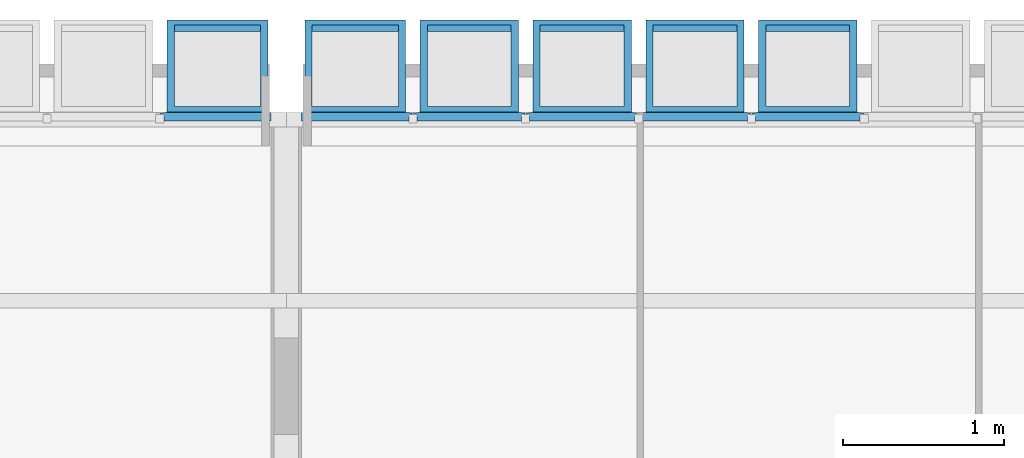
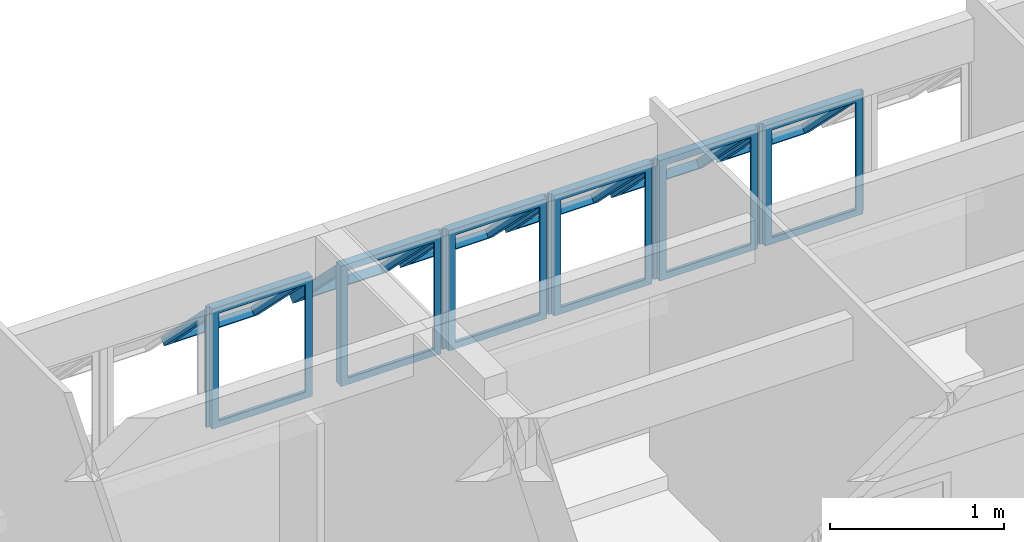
# One storey, part 33 of 37: 6 building element parts, 8 elements without a shape of their own.
"""IFC2X3 building model written with IfcOpenShell, lengths in millimetres."""

from ifc_helpers import new_model, entity, si_unit, converted_unit, derived_unit, money_unit, direction, frame, origin_with_axes, place, context, subcontext, project, spatial, faceted_brep, source, transform, mapped, material, type_object, element, aggregate, save


model = new_model("IFC2X3")

# Units and contexts
model_context = context("Model", 3, precision=0.01, world=origin_with_axes(), true_north=direction((0.0, 1.0)))
body_context = subcontext(model_context, "Body", "Model", "MODEL_VIEW")
ifc_project = project(units=[si_unit("LENGTHUNIT", "METRE", prefix="MILLI"), si_unit("AREAUNIT", "SQUARE_METRE"), si_unit("VOLUMEUNIT", "CUBIC_METRE"), converted_unit("PLANEANGLEUNIT", "DEGREE", entity("IfcPlaneAngleMeasure", 0.0174532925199), si_unit("PLANEANGLEUNIT", "RADIAN"), dimensions=[0, 0, 0, 0, 0, 0, 0]), money_unit("USD"), converted_unit("TIMEUNIT", "Year", entity("IfcTimeMeasure", 31556926.0), si_unit("TIMEUNIT", "SECOND"), dimensions=[0, 0, 1, 0, 0, 0, 0]), si_unit("MASSUNIT", "GRAM", prefix="KILO"), si_unit("THERMODYNAMICTEMPERATUREUNIT", "DEGREE_CELSIUS"), si_unit("LUMINOUSINTENSITYUNIT", "LUMEN"), si_unit("ENERGYUNIT", "JOULE", prefix="MEGA"), derived_unit("THERMALCONDUCTANCEUNIT", [(si_unit("POWERUNIT", "WATT"), 1), (si_unit("LENGTHUNIT", "METRE"), -1), (si_unit("THERMODYNAMICTEMPERATUREUNIT", "KELVIN"), -1)]), derived_unit("SPECIFICHEATCAPACITYUNIT", [(si_unit("ENERGYUNIT", "JOULE"), 1), (si_unit("MASSUNIT", "GRAM", prefix="KILO"), -1), (si_unit("THERMODYNAMICTEMPERATUREUNIT", "KELVIN"), -1)]), derived_unit("MASSDENSITYUNIT", [(si_unit("MASSUNIT", "GRAM", prefix="KILO"), 1), (si_unit("VOLUMEUNIT", "CUBIC_METRE"), -1)])], contexts=[model_context])

# Site, building, storey
site_placement = place(None, origin_with_axes())
site = spatial("IfcSite", under=ifc_project, at=site_placement, Name="Local", CompositionType="ELEMENT")
building_placement = place(site_placement, origin_with_axes())
building = spatial("IfcBuilding", under=site, at=building_placement, Name="Construção", CompositionType="ELEMENT")
storey_placement = place(building_placement, origin_with_axes())
storey = spatial("IfcBuildingStorey", under=building, at=storey_placement, Name="Primeiro Pavimento", CompositionType="ELEMENT", Elevation=0.0)

# Window, plates, building element parts
window_style = type_object("IfcWindowStyle", Name="Tipo de Parede Cortina", ConstructionType="NOTDEFINED", OperationType="NOTDEFINED", ParameterTakesPrecedence=False, Sizeable=False)
window_1_placement = place(storey_placement, frame((8520.0, 25844.9790225, 1355.02054151), z_axis=(0.0, 0.0, 1.0), x_axis=(1.0, 0.0, 0.0)))
window_1 = element("IfcWindow", 1, at=window_1_placement, inside=storey, type_object=window_style, Name="APTO4-JANELA-001")
plate_type_1 = type_object("IfcPlateType", Name="Painel Principal 690 x 845 x 20", PredefinedType="CURTAIN_PANEL")
plate_1_placement = place(window_1_placement, frame((0.0, 0.0, 422.499945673), z_axis=(0.0, 0.0, 1.0), x_axis=(1.0, 0.0, 0.0)))
plate_1 = element("IfcPlate", 2, at=plate_1_placement, type_object=plate_type_1, Name="APTO4-Painel-Prin-030")
ifc_material = material(Name="Alumínio")
shared_shape_1 = source(origin_with_axes(), body_context, "Body", "Brep", [
    faceted_brep([(25.0000036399, 0.0, -40.0), (674.999997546, 0.0, -40.0), (674.999997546, 0.0, -35.0), (25.0000036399, 0.0, -35.0), (70.0000036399, 45.0, -40.0), (629.999997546, 45.0, -40.0), (629.999997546, 45.0, -35.0), (70.0000036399, 45.0, -35.0)], [[[0, 1, 2, 3]], [[0, 4, 5, 1]], [[1, 5, 6, 2]], [[3, 2, 6, 7]], [[4, 0, 3, 7]], [[5, 4, 7, 6]]]),
    faceted_brep([(674.999997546, 0.0, -40.0), (674.999997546, 844.999891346, -40.0), (674.999997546, 844.999891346, -35.0), (674.999997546, 0.0, -35.0), (629.999997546, 45.0, -40.0), (629.999997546, 799.999891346, -40.0), (629.999997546, 799.999891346, -35.0), (629.999997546, 45.0, -35.0)], [[[0, 1, 2, 3]], [[0, 4, 5, 1]], [[1, 5, 6, 2]], [[3, 2, 6, 7]], [[4, 0, 3, 7]], [[5, 4, 7, 6]]]),
    faceted_brep([(25.0000036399, 844.999891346, -40.0), (70.0000036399, 799.999891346, -40.0), (70.0000036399, 799.999891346, -35.0), (25.0000036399, 844.999891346, -35.0), (674.999997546, 844.999891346, -40.0), (629.999997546, 799.999891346, -40.0), (629.999997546, 799.999891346, -35.0), (674.999997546, 844.999891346, -35.0)], [[[0, 1, 2, 3]], [[0, 4, 5, 1]], [[1, 5, 6, 2]], [[3, 2, 6, 7]], [[4, 0, 3, 7]], [[5, 4, 7, 6]]]),
    faceted_brep([(25.0000036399, 0.0, -40.0), (70.0000036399, 45.0, -40.0), (70.0000036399, 45.0, -35.0), (25.0000036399, 0.0, -35.0), (25.0000036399, 844.999891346, -40.0), (70.0000036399, 799.999891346, -40.0), (70.0000036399, 799.999891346, -35.0), (25.0000036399, 844.999891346, -35.0)], [[[0, 1, 2, 3]], [[0, 4, 5, 1]], [[1, 5, 6, 2]], [[3, 2, 6, 7]], [[4, 0, 3, 7]], [[5, 4, 7, 6]]]),
    faceted_brep([(25.0000036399, 0.0, -35.0), (674.999997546, 0.0, -35.0), (674.999997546, 0.0, 15.0), (25.0000036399, 0.0, 15.0), (45.0000036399, 20.0, -35.0), (654.999997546, 20.0, -35.0), (654.999997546, 20.0, 15.0), (45.0000036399, 20.0, 15.0)], [[[0, 1, 2, 3]], [[0, 4, 5, 1]], [[1, 5, 6, 2]], [[3, 2, 6, 7]], [[4, 0, 3, 7]], [[5, 4, 7, 6]]]),
    faceted_brep([(674.999997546, 0.0, -35.0), (674.999997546, 844.999891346, -35.0), (674.999997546, 844.999891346, 15.0), (674.999997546, 0.0, 15.0), (654.999997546, 20.0, -35.0), (654.999997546, 824.999891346, -35.0), (654.999997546, 824.999891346, 15.0), (654.999997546, 20.0, 15.0)], [[[0, 1, 2, 3]], [[0, 4, 5, 1]], [[1, 5, 6, 2]], [[3, 2, 6, 7]], [[4, 0, 3, 7]], [[5, 4, 7, 6]]]),
    faceted_brep([(25.0000036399, 844.999891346, -35.0), (45.0000036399, 824.999891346, -35.0), (45.0000036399, 824.999891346, 15.0), (25.0000036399, 844.999891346, 15.0), (674.999997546, 844.999891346, -35.0), (654.999997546, 824.999891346, -35.0), (654.999997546, 824.999891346, 15.0), (674.999997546, 844.999891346, 15.0)], [[[0, 1, 2, 3]], [[0, 4, 5, 1]], [[1, 5, 6, 2]], [[3, 2, 6, 7]], [[4, 0, 3, 7]], [[5, 4, 7, 6]]]),
    faceted_brep([(25.0000036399, 0.0, -35.0), (45.0000036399, 20.0, -35.0), (45.0000036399, 20.0, 15.0), (25.0000036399, 0.0, 15.0), (25.0000036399, 844.999891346, -35.0), (45.0000036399, 824.999891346, -35.0), (45.0000036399, 824.999891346, 15.0), (25.0000036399, 844.999891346, 15.0)], [[[0, 1, 2, 3]], [[0, 4, 5, 1]], [[1, 5, 6, 2]], [[3, 2, 6, 7]], [[4, 0, 3, 7]], [[5, 4, 7, 6]]]),
    faceted_brep([(694.999995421, 0.0, -10.0), (694.999995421, 844.999891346, -10.0), (694.999995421, 844.999891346, 10.0), (694.999995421, 0.0, 10.0), (674.999997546, 0.0, -10.0), (674.999997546, 844.999891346, -10.0), (674.999997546, 844.999891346, 10.0), (674.999997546, 0.0, 10.0)], [[[0, 1, 2, 3]], [[0, 4, 5, 1]], [[1, 5, 6, 2]], [[3, 2, 6, 7]], [[4, 0, 3, 7]], [[5, 4, 7, 6]]]),
    faceted_brep([(5.00000576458, 844.999891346, -10.0), (5.00000576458, 0.0, -10.0), (5.00000576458, 0.0, 10.0), (5.00000576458, 844.999891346, 10.0), (25.0000036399, 844.999891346, -10.0), (25.0000036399, 0.0, -10.0), (25.0000036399, 0.0, 10.0), (25.0000036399, 844.999891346, 10.0)], [[[0, 1, 2, 3]], [[0, 4, 5, 1]], [[1, 5, 6, 2]], [[3, 2, 6, 7]], [[4, 0, 3, 7]], [[5, 4, 7, 6]]]),
    faceted_brep([(90.0000036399, 252.243475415, 517.045737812), (90.0000036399, 757.824747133, 11.4644660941), (90.0000036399, 796.715620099, 50.3553390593), (90.0000036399, 291.13434838, 555.936610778), (45.0000036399, 220.423670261, 548.865542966), (45.0000036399, 789.644552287, -20.3553390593), (45.0000036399, 828.535425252, 18.5355339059), (45.0000036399, 259.314543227, 587.756415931)], [[[0, 1, 2, 3]], [[0, 4, 5, 1]], [[1, 5, 6, 2]], [[3, 2, 6, 7]], [[4, 0, 3, 7]], [[5, 4, 7, 6]]]),
    faceted_brep([(654.999997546, 220.423670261, 548.865542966), (654.999997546, 789.644552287, -20.3553390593), (654.999997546, 828.535425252, 18.5355339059), (654.999997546, 259.314543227, 587.756415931), (609.999997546, 252.243475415, 517.045737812), (609.999997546, 757.824747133, 11.4644660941), (609.999997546, 796.715620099, 50.3553390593), (609.999997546, 291.13434838, 555.936610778)], [[[0, 1, 2, 3]], [[0, 4, 5, 1]], [[1, 5, 6, 2]], [[3, 2, 6, 7]], [[4, 0, 3, 7]], [[5, 4, 7, 6]]]),
    faceted_brep([(654.999997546, 220.423670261, 548.865542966), (609.999997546, 252.243475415, 517.045737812), (609.999997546, 291.13434838, 555.936610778), (654.999997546, 259.314543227, 587.756415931), (45.0000036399, 220.423670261, 548.865542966), (90.0000036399, 252.243475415, 517.045737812), (90.0000036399, 291.13434838, 555.936610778), (45.0000036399, 259.314543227, 587.756415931)], [[[0, 1, 2, 3]], [[0, 4, 5, 1]], [[1, 5, 6, 2]], [[3, 2, 6, 7]], [[4, 0, 3, 7]], [[5, 4, 7, 6]]]),
    faceted_brep([(45.0000036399, 789.644552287, -20.3553390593), (90.0000036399, 757.824747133, 11.4644660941), (90.0000036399, 796.715620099, 50.3553390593), (45.0000036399, 828.535425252, 18.5355339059), (654.999997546, 789.644552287, -20.3553390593), (609.999997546, 757.824747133, 11.4644660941), (609.999997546, 796.715620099, 50.3553390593), (654.999997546, 828.535425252, 18.5355339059)], [[[0, 1, 2, 3]], [[0, 4, 5, 1]], [[1, 5, 6, 2]], [[3, 2, 6, 7]], [[4, 0, 3, 7]], [[5, 4, 7, 6]]]),
])
building_element_part_1_placement = place(plate_1_placement, origin_with_axes())
building_element_part_1 = element("IfcBuildingElementPart", 3, at=building_element_part_1_placement, material=ifc_material, Name="Alumínio", context=body_context, shape_type="MappedRepresentation", body=[
    mapped(shared_shape_1, transform((350.0, 0.0, -422.499945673), x_axis=(-1.0, 0.0, 0.0), y_axis=(0.0, 0.0, 1.0), z_axis=(0.0, 1.0, 0.0))),
])
aggregate(plate_1, [building_element_part_1])
plate_2_placement = place(window_1_placement, frame((700.0, 0.0, 422.499945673), z_axis=(0.0, 0.0, 1.0), x_axis=(1.0, 0.0, 0.0)))
plate_2 = element("IfcPlate", 4, at=plate_2_placement, type_object=plate_type_1, Name="APTO4-Painel-Prin-020")
building_element_part_2_placement = place(plate_2_placement, origin_with_axes())
building_element_part_2 = element("IfcBuildingElementPart", 5, at=building_element_part_2_placement, material=ifc_material, Name="Alumínio", context=body_context, shape_type="MappedRepresentation", body=[
    mapped(shared_shape_1, transform((350.0, 0.0, -422.499945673), x_axis=(-1.0, 0.0, 0.0), y_axis=(0.0, 0.0, 1.0), z_axis=(0.0, 1.0, 0.0))),
])
aggregate(plate_2, [building_element_part_2])
plate_3_placement = place(window_1_placement, frame((1400.0, 0.0, 422.499945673), z_axis=(0.0, 0.0, 1.0), x_axis=(1.0, 0.0, 0.0)))
plate_3 = element("IfcPlate", 6, at=plate_3_placement, type_object=plate_type_1, Name="APTO4-Painel-Prin-029")
building_element_part_3_placement = place(plate_3_placement, origin_with_axes())
building_element_part_3 = element("IfcBuildingElementPart", 7, at=building_element_part_3_placement, material=ifc_material, Name="Alumínio", context=body_context, shape_type="MappedRepresentation", body=[
    mapped(shared_shape_1, transform((350.0, 0.0, -422.499945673), x_axis=(-1.0, 0.0, 0.0), y_axis=(0.0, 0.0, 1.0), z_axis=(0.0, 1.0, 0.0))),
])
aggregate(plate_3, [building_element_part_3])
plate_type_2 = type_object("IfcPlateType", Name="Painel Principal 685 x 845 x 20", PredefinedType="CURTAIN_PANEL")
plate_4_placement = place(window_1_placement, frame((-695.000037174, 0.0, 422.499953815), z_axis=(0.0, 0.0, 1.0), x_axis=(1.0, 0.0, 0.0)))
plate_4 = element("IfcPlate", 8, at=plate_4_placement, type_object=plate_type_2, Name="APTO4-Painel-Prin-031")
shared_shape_2 = source(origin_with_axes(), body_context, "Body", "Brep", [
    faceted_brep([(25.0000046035, 0.0, -40.0), (690.000079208, 0.0, -40.0), (690.000079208, 0.0, -35.0), (25.0000046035, 0.0, -35.0), (70.0000046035, 45.0, -40.0), (645.000079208, 45.0, -40.0), (645.000079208, 45.0, -35.0), (70.0000046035, 45.0, -35.0)], [[[0, 1, 2, 3]], [[0, 4, 5, 1]], [[1, 5, 6, 2]], [[3, 2, 6, 7]], [[4, 0, 3, 7]], [[5, 4, 7, 6]]]),
    faceted_brep([(690.000079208, 0.0, -40.0), (690.000079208, 844.999923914, -40.0), (690.000079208, 844.999923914, -35.0), (690.000079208, 0.0, -35.0), (645.000079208, 45.0, -40.0), (645.000079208, 799.999923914, -40.0), (645.000079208, 799.999923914, -35.0), (645.000079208, 45.0, -35.0)], [[[0, 1, 2, 3]], [[0, 4, 5, 1]], [[1, 5, 6, 2]], [[3, 2, 6, 7]], [[4, 0, 3, 7]], [[5, 4, 7, 6]]]),
    faceted_brep([(25.0000046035, 844.999923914, -40.0), (70.0000046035, 799.999923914, -40.0), (70.0000046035, 799.999923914, -35.0), (25.0000046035, 844.999923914, -35.0), (690.000079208, 844.999923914, -40.0), (645.000079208, 799.999923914, -40.0), (645.000079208, 799.999923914, -35.0), (690.000079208, 844.999923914, -35.0)], [[[0, 1, 2, 3]], [[0, 4, 5, 1]], [[1, 5, 6, 2]], [[3, 2, 6, 7]], [[4, 0, 3, 7]], [[5, 4, 7, 6]]]),
    faceted_brep([(25.0000046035, 0.0, -40.0), (70.0000046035, 45.0, -40.0), (70.0000046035, 45.0, -35.0), (25.0000046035, 0.0, -35.0), (25.0000046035, 844.999923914, -40.0), (70.0000046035, 799.999923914, -40.0), (70.0000046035, 799.999923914, -35.0), (25.0000046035, 844.999923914, -35.0)], [[[0, 1, 2, 3]], [[0, 4, 5, 1]], [[1, 5, 6, 2]], [[3, 2, 6, 7]], [[4, 0, 3, 7]], [[5, 4, 7, 6]]]),
    faceted_brep([(25.0000046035, 0.0, -35.0), (690.000079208, 0.0, -35.0), (690.000079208, 0.0, 15.0), (25.0000046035, 0.0, 15.0), (45.0000046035, 20.0, -35.0), (670.000079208, 20.0, -35.0), (670.000079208, 20.0, 15.0), (45.0000046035, 20.0, 15.0)], [[[0, 1, 2, 3]], [[0, 4, 5, 1]], [[1, 5, 6, 2]], [[3, 2, 6, 7]], [[4, 0, 3, 7]], [[5, 4, 7, 6]]]),
    faceted_brep([(690.000079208, 0.0, -35.0), (690.000079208, 844.999923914, -35.0), (690.000079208, 844.999923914, 15.0), (690.000079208, 0.0, 15.0), (670.000079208, 20.0, -35.0), (670.000079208, 824.999923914, -35.0), (670.000079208, 824.999923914, 15.0), (670.000079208, 20.0, 15.0)], [[[0, 1, 2, 3]], [[0, 4, 5, 1]], [[1, 5, 6, 2]], [[3, 2, 6, 7]], [[4, 0, 3, 7]], [[5, 4, 7, 6]]]),
    faceted_brep([(25.0000046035, 844.999923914, -35.0), (45.0000046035, 824.999923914, -35.0), (45.0000046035, 824.999923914, 15.0), (25.0000046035, 844.999923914, 15.0), (690.000079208, 844.999923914, -35.0), (670.000079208, 824.999923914, -35.0), (670.000079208, 824.999923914, 15.0), (690.000079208, 844.999923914, 15.0)], [[[0, 1, 2, 3]], [[0, 4, 5, 1]], [[1, 5, 6, 2]], [[3, 2, 6, 7]], [[4, 0, 3, 7]], [[5, 4, 7, 6]]]),
    faceted_brep([(25.0000046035, 0.0, -35.0), (45.0000046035, 20.0, -35.0), (45.0000046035, 20.0, 15.0), (25.0000046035, 0.0, 15.0), (25.0000046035, 844.999923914, -35.0), (45.0000046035, 824.999923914, -35.0), (45.0000046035, 824.999923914, 15.0), (25.0000046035, 844.999923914, 15.0)], [[[0, 1, 2, 3]], [[0, 4, 5, 1]], [[1, 5, 6, 2]], [[3, 2, 6, 7]], [[4, 0, 3, 7]], [[5, 4, 7, 6]]]),
    faceted_brep([(5.00000595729, 844.999923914, -10.0), (5.00000595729, 0.0, -10.0), (5.00000595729, 0.0, 10.0), (5.00000595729, 844.999923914, 10.0), (25.0000046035, 844.999923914, -10.0), (25.0000046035, 0.0, -10.0), (25.0000046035, 0.0, 10.0), (25.0000046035, 844.999923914, 10.0)], [[[0, 1, 2, 3]], [[0, 4, 5, 1]], [[1, 5, 6, 2]], [[3, 2, 6, 7]], [[4, 0, 3, 7]], [[5, 4, 7, 6]]]),
    faceted_brep([(90.0000046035, 252.243484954, 517.045760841), (90.0000046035, 757.824779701, 11.4644660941), (90.0000046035, 796.715652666, 50.3553390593), (90.0000046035, 291.134357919, 555.936633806), (45.0000046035, 220.4236798, 548.865565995), (45.0000046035, 789.644584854, -20.3553390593), (45.0000046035, 828.535457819, 18.5355339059), (45.0000046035, 259.314552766, 587.75643896)], [[[0, 1, 2, 3]], [[0, 4, 5, 1]], [[1, 5, 6, 2]], [[3, 2, 6, 7]], [[4, 0, 3, 7]], [[5, 4, 7, 6]]]),
    faceted_brep([(670.000079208, 220.4236798, 548.865565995), (670.000079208, 789.644584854, -20.3553390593), (670.000079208, 828.535457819, 18.5355339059), (670.000079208, 259.314552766, 587.75643896), (625.000079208, 252.243484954, 517.045760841), (625.000079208, 757.824779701, 11.4644660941), (625.000079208, 796.715652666, 50.3553390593), (625.000079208, 291.134357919, 555.936633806)], [[[0, 1, 2, 3]], [[0, 4, 5, 1]], [[1, 5, 6, 2]], [[3, 2, 6, 7]], [[4, 0, 3, 7]], [[5, 4, 7, 6]]]),
    faceted_brep([(670.000079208, 220.4236798, 548.865565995), (625.000079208, 252.243484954, 517.045760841), (625.000079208, 291.134357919, 555.936633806), (670.000079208, 259.314552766, 587.75643896), (45.0000046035, 220.4236798, 548.865565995), (90.0000046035, 252.243484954, 517.045760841), (90.0000046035, 291.134357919, 555.936633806), (45.0000046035, 259.314552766, 587.75643896)], [[[0, 1, 2, 3]], [[0, 4, 5, 1]], [[1, 5, 6, 2]], [[3, 2, 6, 7]], [[4, 0, 3, 7]], [[5, 4, 7, 6]]]),
    faceted_brep([(45.0000046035, 789.644584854, -20.3553390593), (90.0000046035, 757.824779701, 11.4644660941), (90.0000046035, 796.715652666, 50.3553390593), (45.0000046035, 828.535457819, 18.5355339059), (670.000079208, 789.644584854, -20.3553390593), (625.000079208, 757.824779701, 11.4644660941), (625.000079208, 796.715652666, 50.3553390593), (670.000079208, 828.535457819, 18.5355339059)], [[[0, 1, 2, 3]], [[0, 4, 5, 1]], [[1, 5, 6, 2]], [[3, 2, 6, 7]], [[4, 0, 3, 7]], [[5, 4, 7, 6]]]),
])
building_element_part_4_placement = place(plate_4_placement, origin_with_axes())
building_element_part_4 = element("IfcBuildingElementPart", 9, at=building_element_part_4_placement, material=ifc_material, Name="Alumínio", context=body_context, shape_type="MappedRepresentation", body=[
    mapped(shared_shape_2, transform((345.000037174, 0.0, -422.499953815), x_axis=(-1.0, 0.0, 0.0), y_axis=(0.0, 0.0, 1.0), z_axis=(0.0, 1.0, 0.0))),
])
aggregate(plate_4, [building_element_part_4])
plate_5_placement = place(window_1_placement, frame((2100.0, 0.0, 422.499945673), z_axis=(0.0, 0.0, 1.0), x_axis=(1.0, 0.0, 0.0)))
plate_5 = element("IfcPlate", 10, at=plate_5_placement, type_object=plate_type_1, Name="APTO4-Painel-Prin-025")
aggregate(window_1, [plate_1, plate_4, plate_5, plate_2, plate_3])
shared_shape_3 = source(origin_with_axes(), body_context, "Body", "Brep", [
    faceted_brep([(25.0000036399, 0.0, -40.0), (674.999997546, 0.0, -40.0), (674.999997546, 0.0, -35.0), (25.0000036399, 0.0, -35.0), (70.0000036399, 45.0, -40.0), (629.999997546, 45.0, -40.0), (629.999997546, 45.0, -35.0), (70.0000036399, 45.0, -35.0)], [[[0, 1, 2, 3]], [[0, 4, 5, 1]], [[1, 5, 6, 2]], [[3, 2, 6, 7]], [[4, 0, 3, 7]], [[5, 4, 7, 6]]]),
    faceted_brep([(674.999997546, 0.0, -40.0), (674.999997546, 844.999891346, -40.0), (674.999997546, 844.999891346, -35.0), (674.999997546, 0.0, -35.0), (629.999997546, 45.0, -40.0), (629.999997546, 799.999891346, -40.0), (629.999997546, 799.999891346, -35.0), (629.999997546, 45.0, -35.0)], [[[0, 1, 2, 3]], [[0, 4, 5, 1]], [[1, 5, 6, 2]], [[3, 2, 6, 7]], [[4, 0, 3, 7]], [[5, 4, 7, 6]]]),
    faceted_brep([(25.0000036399, 844.999891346, -40.0), (70.0000036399, 799.999891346, -40.0), (70.0000036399, 799.999891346, -35.0), (25.0000036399, 844.999891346, -35.0), (674.999997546, 844.999891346, -40.0), (629.999997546, 799.999891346, -40.0), (629.999997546, 799.999891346, -35.0), (674.999997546, 844.999891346, -35.0)], [[[0, 1, 2, 3]], [[0, 4, 5, 1]], [[1, 5, 6, 2]], [[3, 2, 6, 7]], [[4, 0, 3, 7]], [[5, 4, 7, 6]]]),
    faceted_brep([(25.0000036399, 0.0, -40.0), (70.0000036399, 45.0, -40.0), (70.0000036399, 45.0, -35.0), (25.0000036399, 0.0, -35.0), (25.0000036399, 844.999891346, -40.0), (70.0000036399, 799.999891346, -40.0), (70.0000036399, 799.999891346, -35.0), (25.0000036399, 844.999891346, -35.0)], [[[0, 1, 2, 3]], [[0, 4, 5, 1]], [[1, 5, 6, 2]], [[3, 2, 6, 7]], [[4, 0, 3, 7]], [[5, 4, 7, 6]]]),
    faceted_brep([(25.0000036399, 0.0, -35.0), (674.999997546, 0.0, -35.0), (674.999997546, 0.0, 15.0), (25.0000036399, 0.0, 15.0), (45.0000036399, 20.0, -35.0), (654.999997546, 20.0, -35.0), (654.999997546, 20.0, 15.0), (45.0000036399, 20.0, 15.0)], [[[0, 1, 2, 3]], [[0, 4, 5, 1]], [[1, 5, 6, 2]], [[3, 2, 6, 7]], [[4, 0, 3, 7]], [[5, 4, 7, 6]]]),
    faceted_brep([(674.999997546, 0.0, -35.0), (674.999997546, 844.999891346, -35.0), (674.999997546, 844.999891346, 15.0), (674.999997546, 0.0, 15.0), (654.999997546, 20.0, -35.0), (654.999997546, 824.999891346, -35.0), (654.999997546, 824.999891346, 15.0), (654.999997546, 20.0, 15.0)], [[[0, 1, 2, 3]], [[0, 4, 5, 1]], [[1, 5, 6, 2]], [[3, 2, 6, 7]], [[4, 0, 3, 7]], [[5, 4, 7, 6]]]),
    faceted_brep([(25.0000036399, 844.999891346, -35.0), (45.0000036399, 824.999891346, -35.0), (45.0000036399, 824.999891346, 15.0), (25.0000036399, 844.999891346, 15.0), (674.999997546, 844.999891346, -35.0), (654.999997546, 824.999891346, -35.0), (654.999997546, 824.999891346, 15.0), (674.999997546, 844.999891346, 15.0)], [[[0, 1, 2, 3]], [[0, 4, 5, 1]], [[1, 5, 6, 2]], [[3, 2, 6, 7]], [[4, 0, 3, 7]], [[5, 4, 7, 6]]]),
    faceted_brep([(25.0000036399, 0.0, -35.0), (45.0000036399, 20.0, -35.0), (45.0000036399, 20.0, 15.0), (25.0000036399, 0.0, 15.0), (25.0000036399, 844.999891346, -35.0), (45.0000036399, 824.999891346, -35.0), (45.0000036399, 824.999891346, 15.0), (25.0000036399, 844.999891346, 15.0)], [[[0, 1, 2, 3]], [[0, 4, 5, 1]], [[1, 5, 6, 2]], [[3, 2, 6, 7]], [[4, 0, 3, 7]], [[5, 4, 7, 6]]]),
    faceted_brep([(694.999995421, 0.0, -10.0), (694.999995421, 844.999891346, -10.0), (694.999995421, 844.999891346, 10.0), (694.999995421, 0.0, 10.0), (674.999997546, 0.0, -10.0), (674.999997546, 844.999891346, -10.0), (674.999997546, 844.999891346, 10.0), (674.999997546, 0.0, 10.0)], [[[0, 1, 2, 3]], [[0, 4, 5, 1]], [[1, 5, 6, 2]], [[3, 2, 6, 7]], [[4, 0, 3, 7]], [[5, 4, 7, 6]]]),
    faceted_brep([(5.00000576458, 844.999891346, -10.0), (5.00000576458, 0.0, -10.0), (5.00000576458, 0.0, 10.0), (5.00000576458, 844.999891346, 10.0), (25.0000036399, 844.999891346, -10.0), (25.0000036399, 0.0, -10.0), (25.0000036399, 0.0, 10.0), (25.0000036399, 844.999891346, 10.0)], [[[0, 1, 2, 3]], [[0, 4, 5, 1]], [[1, 5, 6, 2]], [[3, 2, 6, 7]], [[4, 0, 3, 7]], [[5, 4, 7, 6]]]),
    faceted_brep([(90.0000036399, 252.243475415, 517.045737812), (90.0000036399, 757.824747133, 11.4644660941), (90.0000036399, 796.715620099, 50.3553390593), (90.0000036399, 291.13434838, 555.936610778), (45.0000036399, 220.423670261, 548.865542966), (45.0000036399, 789.644552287, -20.3553390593), (45.0000036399, 828.535425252, 18.5355339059), (45.0000036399, 259.314543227, 587.756415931)], [[[0, 1, 2, 3]], [[0, 4, 5, 1]], [[1, 5, 6, 2]], [[3, 2, 6, 7]], [[4, 0, 3, 7]], [[5, 4, 7, 6]]]),
    faceted_brep([(654.999997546, 220.423670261, 548.865542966), (654.999997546, 789.644552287, -20.3553390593), (654.999997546, 828.535425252, 18.5355339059), (654.999997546, 259.314543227, 587.756415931), (609.999997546, 252.243475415, 517.045737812), (609.999997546, 757.824747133, 11.4644660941), (609.999997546, 796.715620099, 50.3553390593), (609.999997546, 291.13434838, 555.936610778)], [[[0, 1, 2, 3]], [[0, 4, 5, 1]], [[1, 5, 6, 2]], [[3, 2, 6, 7]], [[4, 0, 3, 7]], [[5, 4, 7, 6]]]),
    faceted_brep([(654.999997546, 220.423670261, 548.865542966), (609.999997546, 252.243475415, 517.045737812), (609.999997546, 291.13434838, 555.936610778), (654.999997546, 259.314543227, 587.756415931), (45.0000036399, 220.423670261, 548.865542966), (90.0000036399, 252.243475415, 517.045737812), (90.0000036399, 291.13434838, 555.936610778), (45.0000036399, 259.314543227, 587.756415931)], [[[0, 1, 2, 3]], [[0, 4, 5, 1]], [[1, 5, 6, 2]], [[3, 2, 6, 7]], [[4, 0, 3, 7]], [[5, 4, 7, 6]]]),
    faceted_brep([(45.0000036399, 789.644552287, -20.3553390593), (90.0000036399, 757.824747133, 11.4644660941), (90.0000036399, 796.715620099, 50.3553390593), (45.0000036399, 828.535425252, 18.5355339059), (654.999997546, 789.644552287, -20.3553390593), (609.999997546, 757.824747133, 11.4644660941), (609.999997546, 796.715620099, 50.3553390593), (654.999997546, 828.535425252, 18.5355339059)], [[[0, 1, 2, 3]], [[0, 4, 5, 1]], [[1, 5, 6, 2]], [[3, 2, 6, 7]], [[4, 0, 3, 7]], [[5, 4, 7, 6]]]),
])
building_element_part_5_placement = place(plate_5_placement, origin_with_axes())
building_element_part_5 = element("IfcBuildingElementPart", 11, at=building_element_part_5_placement, material=ifc_material, Name="Alumínio", context=body_context, shape_type="MappedRepresentation", body=[
    mapped(shared_shape_3, transform((350.0, 0.0, -422.499945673), x_axis=(-1.0, 0.0, 0.0), y_axis=(0.0, 0.0, 1.0), z_axis=(0.0, 1.0, 0.0))),
])
aggregate(plate_5, [building_element_part_5])

# Window, plate, building element part
window_2_placement = place(storey_placement, frame((6250.0, 25844.9790225, 1355.02054151), z_axis=(0.0, 0.0, 1.0), x_axis=(1.0, 0.0, 0.0)))
window_2 = element("IfcWindow", 12, at=window_2_placement, inside=storey, type_object=window_style, Name="APTO3-JANELA-001")
plate_6_placement = place(window_2_placement, frame((695.000037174, 0.0, 422.499953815), z_axis=(0.0, 0.0, 1.0), x_axis=(-1.0, 0.0, 0.0)))
plate_6 = element("IfcPlate", 13, at=plate_6_placement, type_object=plate_type_2, Name="APTO3-Painel-Prin-031")
aggregate(window_2, [plate_6])
shared_shape_4 = source(origin_with_axes(), body_context, "Body", "Brep", [
    faceted_brep([(-25.0000046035, 0.0, -40.0), (-25.0000046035, 0.0, -35.0), (-690.000079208, 0.0, -35.0), (-690.000079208, 0.0, -40.0), (-70.0000046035, 45.0, -40.0), (-70.0000046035, 45.0, -35.0), (-645.000079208, 45.0, -35.0), (-645.000079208, 45.0, -40.0)], [[[0, 1, 2, 3]], [[4, 5, 1, 0]], [[1, 5, 6, 2]], [[3, 2, 6, 7]], [[0, 3, 7, 4]], [[7, 6, 5, 4]]]),
    faceted_brep([(-690.000079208, 0.0, -40.0), (-690.000079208, 0.0, -35.0), (-690.000079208, 844.999923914, -35.0), (-690.000079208, 844.999923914, -40.0), (-645.000079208, 45.0, -40.0), (-645.000079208, 45.0, -35.0), (-645.000079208, 799.999923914, -35.0), (-645.000079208, 799.999923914, -40.0)], [[[0, 1, 2, 3]], [[4, 5, 1, 0]], [[1, 5, 6, 2]], [[3, 2, 6, 7]], [[0, 3, 7, 4]], [[7, 6, 5, 4]]]),
    faceted_brep([(-25.0000046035, 844.999923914, -40.0), (-25.0000046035, 844.999923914, -35.0), (-70.0000046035, 799.999923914, -35.0), (-70.0000046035, 799.999923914, -40.0), (-690.000079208, 844.999923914, -40.0), (-690.000079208, 844.999923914, -35.0), (-645.000079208, 799.999923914, -35.0), (-645.000079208, 799.999923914, -40.0)], [[[0, 1, 2, 3]], [[4, 5, 1, 0]], [[1, 5, 6, 2]], [[3, 2, 6, 7]], [[0, 3, 7, 4]], [[7, 6, 5, 4]]]),
    faceted_brep([(-25.0000046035, 0.0, -40.0), (-25.0000046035, 0.0, -35.0), (-70.0000046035, 45.0, -35.0), (-70.0000046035, 45.0, -40.0), (-25.0000046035, 844.999923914, -40.0), (-25.0000046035, 844.999923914, -35.0), (-70.0000046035, 799.999923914, -35.0), (-70.0000046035, 799.999923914, -40.0)], [[[0, 1, 2, 3]], [[4, 5, 1, 0]], [[1, 5, 6, 2]], [[3, 2, 6, 7]], [[0, 3, 7, 4]], [[7, 6, 5, 4]]]),
    faceted_brep([(-25.0000046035, 0.0, -35.0), (-25.0000046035, 0.0, 15.0), (-690.000079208, 0.0, 15.0), (-690.000079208, 0.0, -35.0), (-45.0000046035, 20.0, -35.0), (-45.0000046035, 20.0, 15.0), (-670.000079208, 20.0, 15.0), (-670.000079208, 20.0, -35.0)], [[[0, 1, 2, 3]], [[4, 5, 1, 0]], [[1, 5, 6, 2]], [[3, 2, 6, 7]], [[0, 3, 7, 4]], [[7, 6, 5, 4]]]),
    faceted_brep([(-690.000079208, 0.0, -35.0), (-690.000079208, 0.0, 15.0), (-690.000079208, 844.999923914, 15.0), (-690.000079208, 844.999923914, -35.0), (-670.000079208, 20.0, -35.0), (-670.000079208, 20.0, 15.0), (-670.000079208, 824.999923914, 15.0), (-670.000079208, 824.999923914, -35.0)], [[[0, 1, 2, 3]], [[4, 5, 1, 0]], [[1, 5, 6, 2]], [[3, 2, 6, 7]], [[0, 3, 7, 4]], [[7, 6, 5, 4]]]),
    faceted_brep([(-25.0000046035, 844.999923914, -35.0), (-25.0000046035, 844.999923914, 15.0), (-45.0000046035, 824.999923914, 15.0), (-45.0000046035, 824.999923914, -35.0), (-690.000079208, 844.999923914, -35.0), (-690.000079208, 844.999923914, 15.0), (-670.000079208, 824.999923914, 15.0), (-670.000079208, 824.999923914, -35.0)], [[[0, 1, 2, 3]], [[4, 5, 1, 0]], [[1, 5, 6, 2]], [[3, 2, 6, 7]], [[0, 3, 7, 4]], [[7, 6, 5, 4]]]),
    faceted_brep([(-25.0000046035, 0.0, -35.0), (-25.0000046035, 0.0, 15.0), (-45.0000046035, 20.0, 15.0), (-45.0000046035, 20.0, -35.0), (-25.0000046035, 844.999923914, -35.0), (-25.0000046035, 844.999923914, 15.0), (-45.0000046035, 824.999923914, 15.0), (-45.0000046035, 824.999923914, -35.0)], [[[0, 1, 2, 3]], [[4, 5, 1, 0]], [[1, 5, 6, 2]], [[3, 2, 6, 7]], [[0, 3, 7, 4]], [[7, 6, 5, 4]]]),
    faceted_brep([(-5.00000595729, 844.999923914, -10.0), (-5.00000595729, 844.999923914, 10.0), (-5.00000595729, 0.0, 10.0), (-5.00000595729, 0.0, -10.0), (-25.0000046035, 844.999923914, -10.0), (-25.0000046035, 844.999923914, 10.0), (-25.0000046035, 0.0, 10.0), (-25.0000046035, 0.0, -10.0)], [[[0, 1, 2, 3]], [[4, 5, 1, 0]], [[1, 5, 6, 2]], [[3, 2, 6, 7]], [[0, 3, 7, 4]], [[7, 6, 5, 4]]]),
    faceted_brep([(-90.0000046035, 252.243484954, 517.045760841), (-90.0000046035, 291.134357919, 555.936633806), (-90.0000046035, 796.715652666, 50.3553390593), (-90.0000046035, 757.824779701, 11.4644660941), (-45.0000046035, 220.4236798, 548.865565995), (-45.0000046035, 259.314552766, 587.75643896), (-45.0000046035, 828.535457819, 18.5355339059), (-45.0000046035, 789.644584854, -20.3553390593)], [[[0, 1, 2, 3]], [[4, 5, 1, 0]], [[1, 5, 6, 2]], [[3, 2, 6, 7]], [[0, 3, 7, 4]], [[7, 6, 5, 4]]]),
    faceted_brep([(-670.000079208, 220.4236798, 548.865565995), (-670.000079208, 259.314552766, 587.75643896), (-670.000079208, 828.535457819, 18.5355339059), (-670.000079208, 789.644584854, -20.3553390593), (-625.000079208, 252.243484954, 517.045760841), (-625.000079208, 291.134357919, 555.936633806), (-625.000079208, 796.715652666, 50.3553390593), (-625.000079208, 757.824779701, 11.4644660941)], [[[0, 1, 2, 3]], [[4, 5, 1, 0]], [[1, 5, 6, 2]], [[3, 2, 6, 7]], [[0, 3, 7, 4]], [[7, 6, 5, 4]]]),
    faceted_brep([(-670.000079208, 220.4236798, 548.865565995), (-670.000079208, 259.314552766, 587.75643896), (-625.000079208, 291.134357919, 555.936633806), (-625.000079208, 252.243484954, 517.045760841), (-45.0000046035, 220.4236798, 548.865565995), (-45.0000046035, 259.314552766, 587.75643896), (-90.0000046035, 291.134357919, 555.936633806), (-90.0000046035, 252.243484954, 517.045760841)], [[[0, 1, 2, 3]], [[4, 5, 1, 0]], [[1, 5, 6, 2]], [[3, 2, 6, 7]], [[0, 3, 7, 4]], [[7, 6, 5, 4]]]),
    faceted_brep([(-45.0000046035, 789.644584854, -20.3553390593), (-45.0000046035, 828.535457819, 18.5355339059), (-90.0000046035, 796.715652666, 50.3553390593), (-90.0000046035, 757.824779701, 11.4644660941), (-670.000079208, 789.644584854, -20.3553390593), (-670.000079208, 828.535457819, 18.5355339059), (-625.000079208, 796.715652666, 50.3553390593), (-625.000079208, 757.824779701, 11.4644660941)], [[[0, 1, 2, 3]], [[4, 5, 1, 0]], [[1, 5, 6, 2]], [[3, 2, 6, 7]], [[0, 3, 7, 4]], [[7, 6, 5, 4]]]),
])
building_element_part_6_placement = place(plate_6_placement, origin_with_axes())
building_element_part_6 = element("IfcBuildingElementPart", 14, at=building_element_part_6_placement, material=ifc_material, Name="Alumínio", context=body_context, shape_type="MappedRepresentation", body=[
    mapped(shared_shape_4, transform((345.000037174, 0.0, -422.499953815), x_axis=(1.0, 0.0, 0.0), y_axis=(0.0, 0.0, 1.0), z_axis=(0.0, -1.0, 0.0))),
])
aggregate(plate_6, [building_element_part_6])

save(model, "model.ifc")
